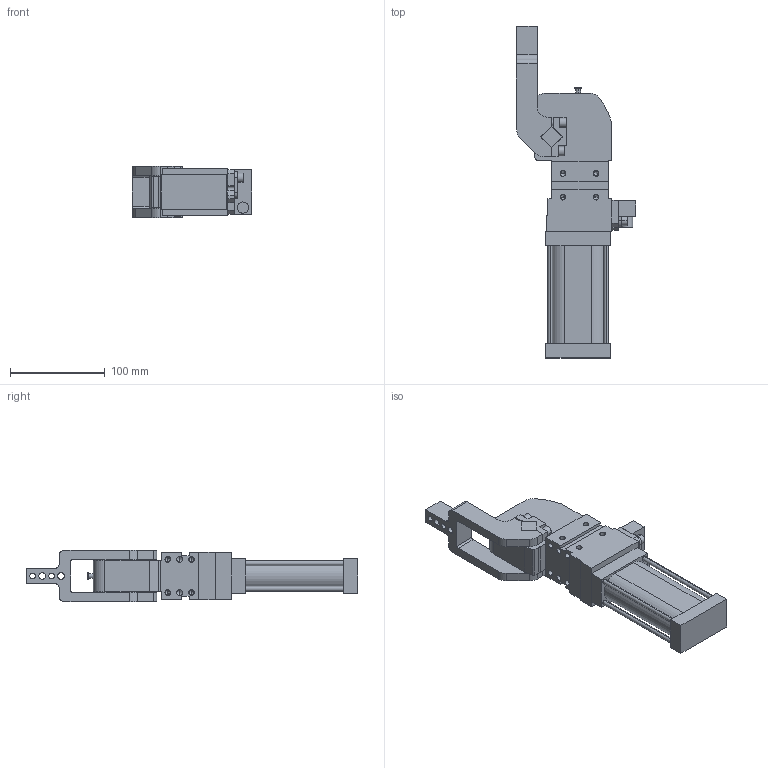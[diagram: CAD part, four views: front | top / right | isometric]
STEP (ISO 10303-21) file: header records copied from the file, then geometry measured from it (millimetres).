
FILE_DESCRIPTION (( 'STEP AP214' ), '1' );
FILE_NAME ('cpl40h1ci1g_122.STEP', '2021-05-17T10:15:37', ( '' ), ( '' ), 'SwSTEP 2.0', 'SolidWorks 2021', '' );
FILE_SCHEMA (( 'AUTOMOTIVE_DESIGN' ));
Length unit declared in the file: millimetre
Products named in the file (5): leva_v1c_cpl40; meccanica_cpl40; cpl40h1ci1g_122; blocchetto_VEP_0_cpl40; piastra_blocchetto_cpl40
Assembly tree (4 placements, depth 2):
  cpl40h1ci1g_122
    meccanica_cpl40
    leva_v1c_cpl40
    blocchetto_VEP_0_cpl40
    piastra_blocchetto_cpl40
Bounding box: 125.5 x 350 x 54 mm (x, y, z)
Volume: 772629.8 mm3; surface area: 118076.1 mm2
Topology: 5 solids, 5 shells, 442 faces, 1130 edges, 709 vertices
Faces by surface type: plane 246, cylinder 148, cone 48
Entity records: 14617 total; most frequent: DIRECTION 2308, CARTESIAN_POINT 2242, ORIENTED_EDGE 2168, EDGE_CURVE 1084, AXIS2_PLACEMENT_3D 775, LINE 758, VECTOR 758, VERTEX_POINT 709
